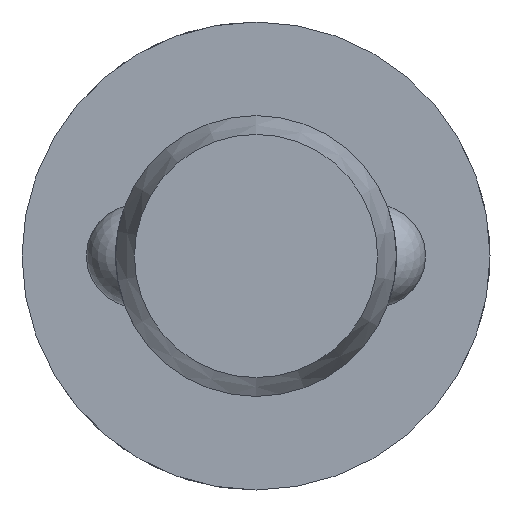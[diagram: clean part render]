
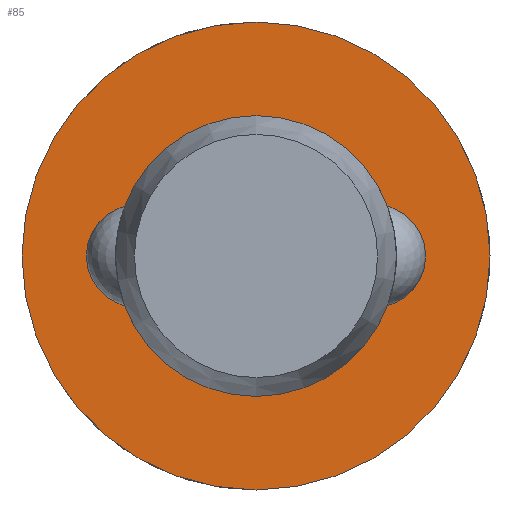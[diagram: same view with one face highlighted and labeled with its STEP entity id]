
A CAD part, left-side view. The second image highlights one B-rep face of the part: STEP entity #85.
In plain terms, the highlighted planar face has unit normal (-1, 0, 0).
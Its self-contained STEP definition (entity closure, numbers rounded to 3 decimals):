
#85 = ADVANCED_FACE( '', ( #130, #131 ), #132, .F. );
#130 = FACE_OUTER_BOUND( '', #201, .T. );
#131 = FACE_BOUND( '', #202, .T. );
#132 = PLANE( '', #203 );
#201 = EDGE_LOOP( '', ( #317 ) );
#202 = EDGE_LOOP( '', ( #318 ) );
#203 = AXIS2_PLACEMENT_3D( '', #319, #320, #321 );
#317 = ORIENTED_EDGE( '', *, *, #461, .F. );
#318 = ORIENTED_EDGE( '', *, *, #458, .T. );
#319 = CARTESIAN_POINT( '', ( 130.6, 6., 0. ) );
#320 = DIRECTION( '', ( 1., 0., 0. ) );
#321 = DIRECTION( '', ( 0., 0., -1. ) );
#458 = EDGE_CURVE( '', #532, #532, #533, .T. );
#461 = EDGE_CURVE( '', #538, #538, #539, .T. );
#532 = VERTEX_POINT( '', #742 );
#533 = CIRCLE( '', #743, 6. );
#538 = VERTEX_POINT( '', #858 );
#539 = CIRCLE( '', #859, 10. );
#742 = CARTESIAN_POINT( '', ( 130.6, 0., -6. ) );
#743 = AXIS2_PLACEMENT_3D( '', #936, #937, #938 );
#858 = CARTESIAN_POINT( '', ( 130.6, 0., -10. ) );
#859 = AXIS2_PLACEMENT_3D( '', #939, #940, #941 );
#936 = CARTESIAN_POINT( '', ( 130.6, 0., 0. ) );
#937 = DIRECTION( '', ( 1., 0., 0. ) );
#938 = DIRECTION( '', ( 0., 0., -1. ) );
#939 = CARTESIAN_POINT( '', ( 130.6, 0., 0. ) );
#940 = DIRECTION( '', ( 1., 0., 0. ) );
#941 = DIRECTION( '', ( 0., 0., -1. ) );
